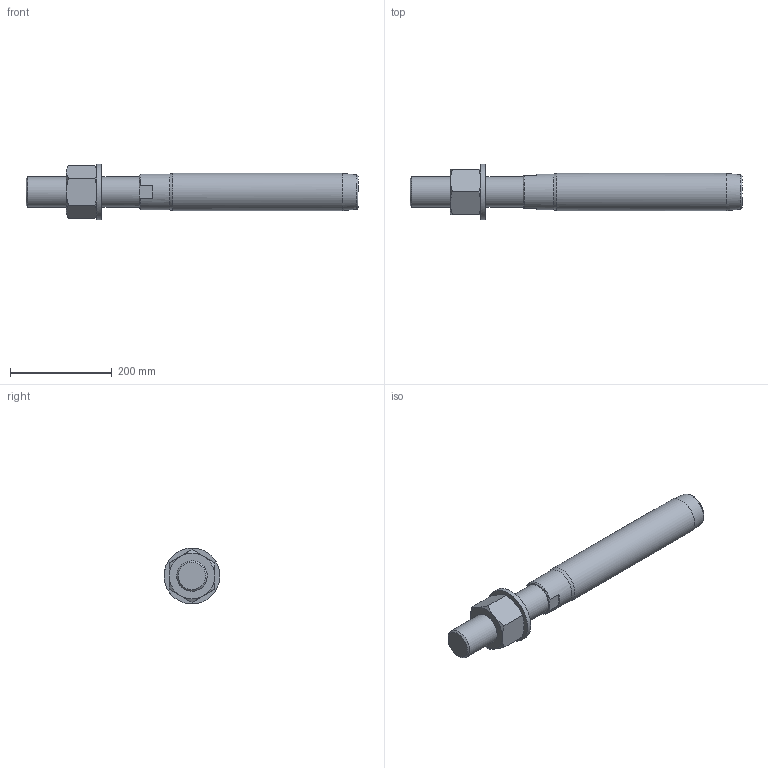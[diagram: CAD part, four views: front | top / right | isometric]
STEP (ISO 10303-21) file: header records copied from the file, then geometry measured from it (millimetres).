
FILE_DESCRIPTION(/* description */ (''),/* implementation_level */ '2;1');
FILE_NAME(/* name */ 'FLT 40_42CrMo4',/* time_stamp */ '2023-05-23T15:57:55+02:00',/* author */ (''),/* organization */ (''),/* preprocessor_version */ 'ST-DEVELOPER v16.5',/* originating_system */ 'Rhino 7.22',/* authorisation */ '');
FILE_SCHEMA (('CONFIG_CONTROL_DESIGN'));
Length unit declared in the file: millimetre
Products named in the file (1): Document
Bounding box: 654 x 109.99 x 109.92 mm (x, y, z)
Volume: 2757657 mm3; surface area: 202320.8 mm2
Topology: 3 solids, 3 shells, 43 faces, 103 edges, 67 vertices
Faces by surface type: bspline 20, plane 17, cylinder 6
Full cylindrical faces by diameter (mm): 54.046 x1, 60 x1, 62 x1, 70 x1, 73.5 x1, 110 x1
Entity records: 1586 total; most frequent: CARTESIAN_POINT 881, ORIENTED_EDGE 206, EDGE_CURVE 103, VERTEX_POINT 67, EDGE_LOOP 48, ADVANCED_FACE 43, FACE_OUTER_BOUND 43, DIRECTION 27
